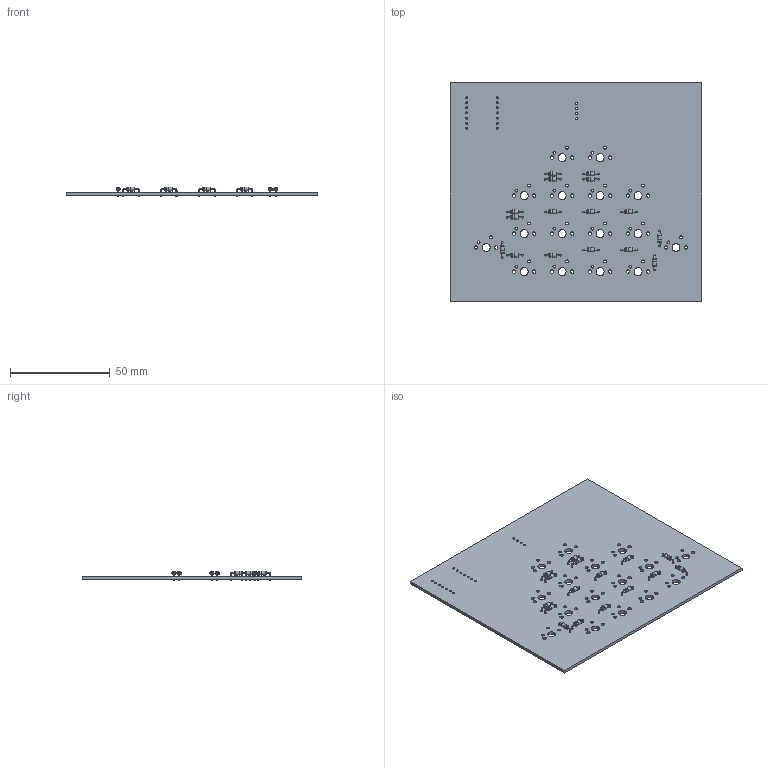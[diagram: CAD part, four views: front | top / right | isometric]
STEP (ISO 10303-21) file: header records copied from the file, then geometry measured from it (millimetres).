
FILE_DESCRIPTION(('KiCad electronic assembly'),'2;1');
FILE_NAME('.step','2026-08-10T20:22:56',('Pcbnew'),('Kicad'), 'Open CASCADE STEP processor 7.9','KiCad to STEP converter','Unknown' );
FILE_SCHEMA(('AUTOMOTIVE_DESIGN { 1 0 10303 214 1 1 1 1 }'));
Length unit declared in the file: millimetre
Products named in the file (3): .step 1; D_DO-35_SOD27_P7.62mm_Horizontal; Hackpad tutorial_PCB
Assembly tree (17 placements, depth 2):
  .step 1
    D_DO-35_SOD27_P7.62mm_Horizontal  x16
    Hackpad tutorial_PCB
Bounding box: 126 x 109.5 x 5.01 mm (x, y, z)
Volume: 20532.7 mm3; surface area: 29437.4 mm2
Topology: 33 solids, 33 shells, 392 faces, 786 edges, 492 vertices
Faces by surface type: cylinder 226, plane 102, torus 64
Full cylindrical faces by diameter (mm): 0.5 x48, 0.8 x32, 1 x18, 1.5 x32, 1.7 x32, 2 x32, 2.02 x16, 4 x16
Entity records: 5867 total; most frequent: DIRECTION 1044, CARTESIAN_POINT 878, ORIENTED_EDGE 852, AXIS2_PLACEMENT_3D 448, EDGE_CURVE 426, FACE_BOUND 414, EDGE_LOOP 414, VERTEX_POINT 282
